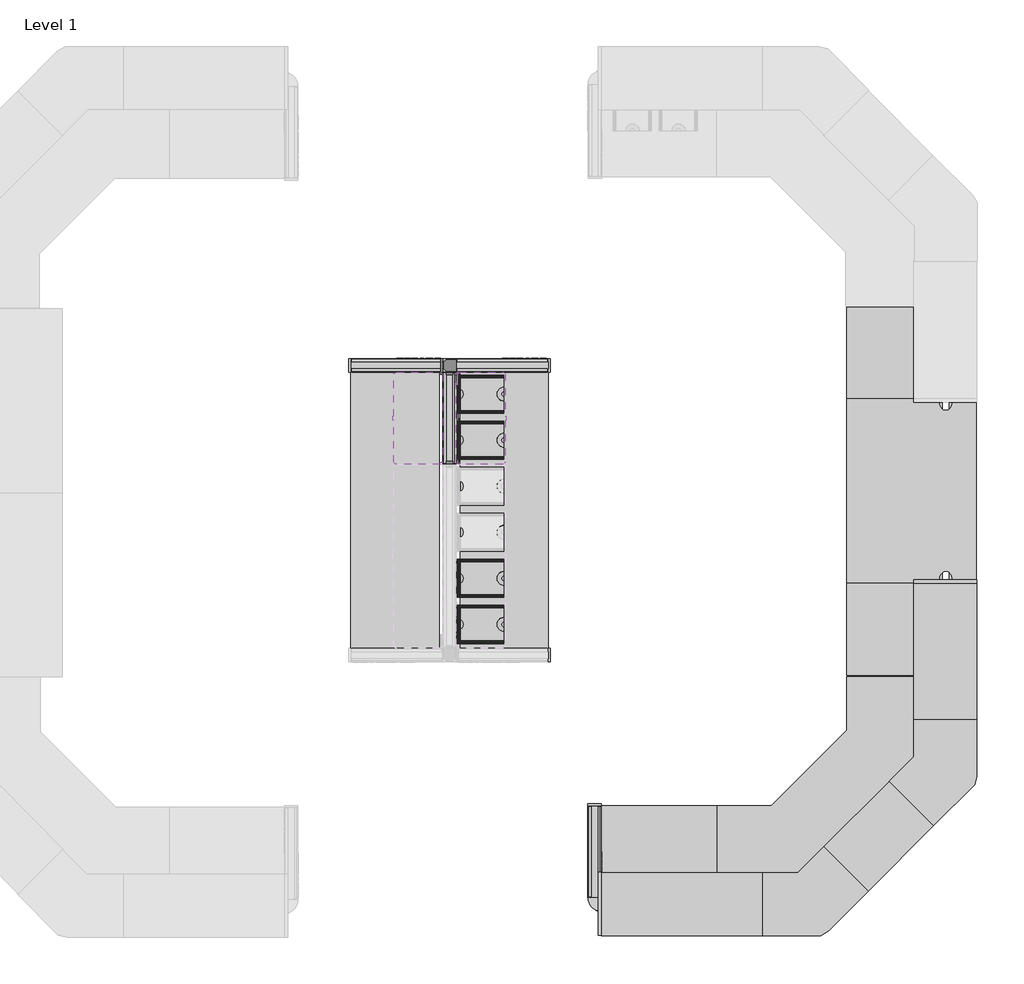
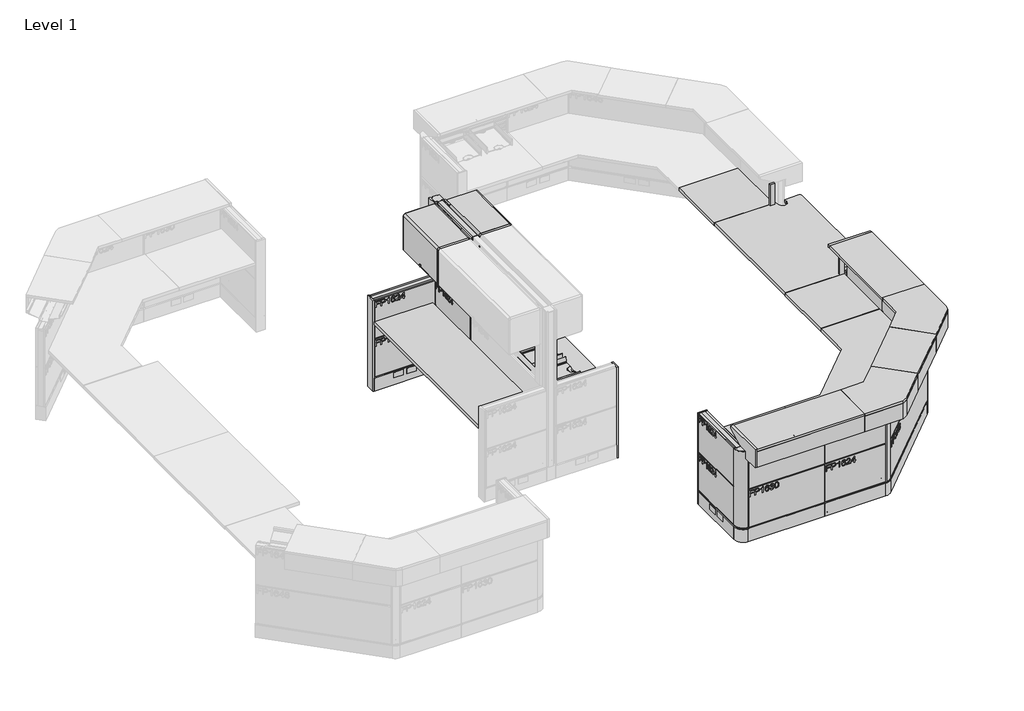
# One storey, part 2 of 3: 110 furniture elements.
"""IFC4 building model written with IfcOpenShell, lengths in millimetres."""

from ifc_helpers import new_model, si_unit, origin, place, context, project, spatial, transform, mapped, element, save
from components import furniture_050a35a8, furniture_c9942d7d, furniture_f6e7f18d, furniture_7324295f, furniture_a86162da, furniture_df6beef7, furniture_9c7ec0bd, furniture_8828cb60, furniture_deab35e4, furniture_083f9362, furniture_0245ad47, furniture_adfb5ce8, furniture_f9b3eec1, furniture_44389360, furniture_d1243616, furniture_9dcc6860, furniture_c5aecc28, furniture_c9bda4e8, furniture_8bbf410e, furniture_7175fb00, furniture_e496f4a3, furniture_85814acf, furniture_61a489be, furniture_2b4b025d, furniture_bb47e685, furniture_82e04d0f, furniture_d0e672ad, furniture_481bf6a0, furniture_f3e254ba, furniture_135_deg_68790faa, furniture_135_deg_corner_e0015eda, furniture_24d_left_781ecdd2, furniture_24d_right_b8f5cfed, furniture_68980961, furniture_c74ffdfc, end_cap_54c5994d, lam_24d_24w_e9b59cf5, lam_24d_30w_89995873, lam_24d_48w_d90dfd80, lam_24d_72w_2bc73c4e, left_ebece1d7

model = new_model("IFC4")

# Units and contexts
model_context = context("Model", 3, world=origin())
ifc_project = project(units=[si_unit("LENGTHUNIT", "METRE", prefix="MILLI")], contexts=[model_context])

# Site, building, storey
site = spatial("IfcSite", under=ifc_project)
building = spatial("IfcBuilding", under=site)
storey = spatial("IfcBuildingStorey", under=building, Name="Level 1", Elevation=0.0)

# Furniture
placement = place(None, origin())
furniture_shape = furniture_050a35a8(model_context)
element("IfcFurniture", 1, ObjectType="HermanMiller_Ethospace_EWS73_F_Sq-Edge135WorkSurfaceDouble_FrameAttached : Ptd 24D 48W", at=placement, inside=storey, context=model_context, shape_type="MappedRepresentation", body=[
    mapped(furniture_shape, transform((6177.9811792, 679.0398452, 0.0), x_axis=(0.0, -1.0, 0.0), y_axis=(1.0, 0.0, 0.0), z_axis=(0.0, 0.0, 1.0))),
])
furniture_2_shape = furniture_c9942d7d(model_context)
element("IfcFurniture", 2, ObjectType="HermanMiller_Ethospace_E3212_B-StyleFlipperDoorUnit : Ptd W/Lock 13\"D x 24\"W", at=placement, inside=storey, context=model_context, shape_type="MappedRepresentation", body=[
    mapped(furniture_2_shape, transform((3357.52186, 3437.39978, 0.0), x_axis=(0.0, -1.0, 0.0), y_axis=(1.0, 0.0, 0.0), z_axis=(0.0, 0.0, 1.0))),
])
element("IfcFurniture", 3, ObjectType="HermanMiller_Ethospace_E3212_B-StyleFlipperDoorUnit : Ptd W/Lock 13\"D x 24\"W", at=placement, inside=storey, context=model_context, shape_type="MappedRepresentation", body=[
    mapped(furniture_2_shape, transform((3795.67186, 3437.3947, 0.0), x_axis=(0.0, 1.0, 0.0), y_axis=(-1.0, 0.0, 0.0), z_axis=(0.0, 0.0, 1.0))),
])
furniture_3_shape = furniture_f6e7f18d(model_context)
element("IfcFurniture", 4, ObjectType="HermanMiller_Ethospace_E2830_SqEdgeCounterTop : 7-1/2\"H x 16-3/8\"D x 42\"W", at=placement, inside=storey, context=model_context, shape_type="MappedRepresentation", body=[
    mapped(furniture_3_shape, transform((5114.96056, 221.57817, 0.0), x_axis=(-1.0, 0.0, 0.0), y_axis=(0.0, -1.0, 0.0), z_axis=(0.0, 0.0, 1.0))),
])
furniture_4_shape = furniture_7324295f(model_context)
element("IfcFurniture", 5, ObjectType="HermanMiller_Ethospace_E2830_SqEdgeCounterTop : 7-1/2\"H x 16-3/8\"D x 36\"W", at=placement, inside=storey, context=model_context, shape_type="MappedRepresentation", body=[
    mapped(furniture_4_shape, transform((6854.95454, 1887.89056, 0.0), x_axis=(0.0, -1.0, 0.0), y_axis=(1.0, 0.0, 0.0), z_axis=(0.0, 0.0, 1.0))),
])
furniture_5_shape = furniture_a86162da(model_context)
element("IfcFurniture", 6, ObjectType="HermanMiller_Ethospace_E2830_SqEdgeCounterTop : 7-1/2\"H x 16-3/8\"D x 24\"W", at=placement, inside=storey, context=model_context, shape_type="MappedRepresentation", body=[
    mapped(furniture_5_shape, transform((6415.4468618, 670.4021868, 0.0), x_axis=(-0.7071067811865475, -0.7071067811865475, 0.0), y_axis=(0.7071067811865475, -0.7071067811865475, 0.0), z_axis=(0.0, 0.0, 1.0))),
])
furniture_6_shape = furniture_df6beef7(model_context)
element("IfcFurniture", 7, ObjectType="HermanMiller_Ethospace_E2827_CounterTopSupport : 48\"W W/Light", at=placement, inside=storey, context=model_context, shape_type="MappedRepresentation", body=[
    mapped(furniture_6_shape, transform((6406.6635136, 672.8441587, 0.0), x_axis=(-0.7071067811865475, -0.7071067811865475, 0.0), y_axis=(0.7071067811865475, -0.7071067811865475, 0.0), z_axis=(0.0, 0.0, 1.0))),
])
furniture_7_shape = furniture_9c7ec0bd(model_context)
element("IfcFurniture", 8, ObjectType="HermanMiller_Ethospace_E2827_CounterTopSupport : 30\"W W/Light", at=placement, inside=storey, context=model_context, shape_type="MappedRepresentation", body=[
    mapped(furniture_7_shape, transform((4962.26338, 232.19664, 0.0), x_axis=(-1.0, 0.0, 0.0), y_axis=(0.0, -1.0, 0.0), z_axis=(0.0, 0.0, 1.0))),
])
furniture_8_shape = furniture_8828cb60(model_context)
element("IfcFurniture", 9, ObjectType="HermanMiller_Ethospace_E2827_CounterTopSupport : 24\"W W/Light", at=placement, inside=storey, context=model_context, shape_type="MappedRepresentation", body=[
    mapped(furniture_8_shape, transform((6847.01704, 2040.74776, 0.0), x_axis=(0.0, -1.0, 0.0), y_axis=(1.0, 0.0, 0.0), z_axis=(0.0, 0.0, 1.0))),
])
element("IfcFurniture", 10, ObjectType="HermanMiller_Ethospace_E2827_CounterTopSupport : 24\"W W/Light", at=placement, inside=storey, context=model_context, shape_type="MappedRepresentation", body=[
    mapped(furniture_8_shape, transform((5648.06338, 232.19664, 0.0), x_axis=(-1.0, 0.0, 0.0), y_axis=(0.0, -1.0, 0.0), z_axis=(0.0, 0.0, 1.0))),
])
element("IfcFurniture", 11, ObjectType="HermanMiller_Ethospace_E2827_CounterTopSupport : 24\"W W/Light", at=placement, inside=storey, context=model_context, shape_type="MappedRepresentation", body=[
    mapped(furniture_8_shape, transform((6847.01704, 1430.5534, 0.0), x_axis=(0.0, -1.0, 0.0), y_axis=(1.0, 0.0, 0.0), z_axis=(0.0, 0.0, 1.0))),
])
furniture_9_shape = furniture_deab35e4(model_context)
element("IfcFurniture", 12, ObjectType="HermanMiller_Ethospace_E1425_RailTile : 08\"H x 24\"W", at=placement, inside=storey, context=model_context, shape_type="MappedRepresentation", body=[
    mapped(furniture_9_shape, transform((3611.05958, 3437.3947, 0.0), x_axis=(0.0, 1.0, 0.0), y_axis=(-1.0, 0.0, 0.0), z_axis=(0.0, 0.0, 1.0))),
])
furniture_10_shape = furniture_083f9362(model_context)
element("IfcFurniture", 13, ObjectType="HermanMiller_Ethospace_E1420_FaceTile : Ptd 20\"H x 48\"W", at=placement, inside=storey, context=model_context, shape_type="MappedRepresentation", body=[
    mapped(furniture_10_shape, transform((6891.4670461, 2954.69056, 0.0), x_axis=(0.0, 1.0, 0.0), y_axis=(-1.0, 0.0, 0.0), z_axis=(0.0, 0.0, 1.0))),
])
element("IfcFurniture", 14, ObjectType="HermanMiller_Ethospace_E1420_FaceTile : Ptd 20\"H x 48\"W", at=placement, inside=storey, context=model_context, shape_type="MappedRepresentation", body=[
    mapped(furniture_10_shape, transform((6827.9670339, 2954.5534, 0.0), x_axis=(0.0, -1.0, 0.0), y_axis=(1.0, 0.0, 0.0), z_axis=(0.0, 0.0, 1.0))),
])
furniture_11_shape = furniture_0245ad47(model_context)
element("IfcFurniture", 15, ObjectType="HermanMiller_Ethospace_E1420_FaceTile : Ptd 16\"H x 48\"W", at=placement, inside=storey, context=model_context, shape_type="MappedRepresentation", body=[
    mapped(furniture_11_shape, transform((6438.095062, 640.8195457, 0.0), x_axis=(0.7071067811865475, 0.7071067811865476, 0.0), y_axis=(-0.7071067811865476, 0.7071067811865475, 0.0), z_axis=(0.0, 0.0, 1.0))),
])
element("IfcFurniture", 16, ObjectType="HermanMiller_Ethospace_E1420_FaceTile : Ptd 16\"H x 48\"W", at=placement, inside=storey, context=model_context, shape_type="MappedRepresentation", body=[
    mapped(furniture_11_shape, transform((6394.879018, 684.0368343, 0.0), x_axis=(-0.7071067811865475, -0.7071067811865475, 0.0), y_axis=(0.7071067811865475, -0.7071067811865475, 0.0), z_axis=(0.0, 0.0, 1.0))),
])
furniture_12_shape = furniture_adfb5ce8(model_context)
element("IfcFurniture", 17, ObjectType="HermanMiller_Ethospace_E1420_FaceTile : Ptd 16\"H x 48\"W", at=placement, inside=storey, context=model_context, shape_type="MappedRepresentation", body=[
    mapped(furniture_12_shape, transform((6394.879018, 684.0368343, 0.0), x_axis=(-0.7071067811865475, -0.7071067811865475, 0.0), y_axis=(0.7071067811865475, -0.7071067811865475, 0.0), z_axis=(0.0, 0.0, 1.0))),
])
element("IfcFurniture", 18, ObjectType="HermanMiller_Ethospace_E1420_FaceTile : Ptd 16\"H x 48\"W", at=placement, inside=storey, context=model_context, shape_type="MappedRepresentation", body=[
    mapped(furniture_12_shape, transform((6438.095062, 640.8195457, 0.0), x_axis=(0.7071067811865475, 0.7071067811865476, 0.0), y_axis=(-0.7071067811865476, 0.7071067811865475, 0.0), z_axis=(0.0, 0.0, 1.0))),
])
furniture_13_shape = furniture_f9b3eec1(model_context)
element("IfcFurniture", 19, ObjectType="HermanMiller_Ethospace_E1420_FaceTile : Ptd 16\"H x 30\"W", at=placement, inside=storey, context=model_context, shape_type="MappedRepresentation", body=[
    mapped(furniture_13_shape, transform((4962.56056, 187.4469139, 0.0), x_axis=(1.0, 0.0, 0.0), y_axis=(0.0, 1.0, 0.0), z_axis=(0.0, 0.0, 1.0))),
])
element("IfcFurniture", 20, ObjectType="HermanMiller_Ethospace_E1420_FaceTile : Ptd 16\"H x 30\"W", at=placement, inside=storey, context=model_context, shape_type="MappedRepresentation", body=[
    mapped(furniture_13_shape, transform((4962.56056, 250.9469261, 0.0), x_axis=(-1.0, 0.0, 0.0), y_axis=(0.0, -1.0, 0.0), z_axis=(0.0, 0.0, 1.0))),
])
furniture_14_shape = furniture_44389360(model_context)
element("IfcFurniture", 21, ObjectType="HermanMiller_Ethospace_E1420_FaceTile : Ptd 16\"H x 30\"W", at=placement, inside=storey, context=model_context, shape_type="MappedRepresentation", body=[
    mapped(furniture_14_shape, transform((4962.56056, 187.4469139, 0.0), x_axis=(1.0, 0.0, 0.0), y_axis=(0.0, 1.0, 0.0), z_axis=(0.0, 0.0, 1.0))),
])
element("IfcFurniture", 22, ObjectType="HermanMiller_Ethospace_E1420_FaceTile : Ptd 16\"H x 30\"W", at=placement, inside=storey, context=model_context, shape_type="MappedRepresentation", body=[
    mapped(furniture_14_shape, transform((4962.56056, 250.9469261, 0.0), x_axis=(-1.0, 0.0, 0.0), y_axis=(0.0, -1.0, 0.0), z_axis=(0.0, 0.0, 1.0))),
])
furniture_15_shape = furniture_d1243616(model_context)
element("IfcFurniture", 23, ObjectType="HermanMiller_Ethospace_E1420_FaceTile : Ptd 16\"H x 24\"W", at=placement, inside=storey, context=model_context, shape_type="MappedRepresentation", body=[
    mapped(furniture_15_shape, transform((6891.4670461, 2040.29056, 0.0), x_axis=(0.0, 1.0, 0.0), y_axis=(-1.0, 0.0, 0.0), z_axis=(0.0, 0.0, 1.0))),
])
element("IfcFurniture", 24, ObjectType="HermanMiller_Ethospace_E1420_FaceTile : Ptd 16\"H x 24\"W", at=placement, inside=storey, context=model_context, shape_type="MappedRepresentation", body=[
    mapped(furniture_15_shape, transform((6827.9670339, 2040.29056, 0.0), x_axis=(0.0, -1.0, 0.0), y_axis=(1.0, 0.0, 0.0), z_axis=(0.0, 0.0, 1.0))),
])
element("IfcFurniture", 25, ObjectType="HermanMiller_Ethospace_E1420_FaceTile : Ptd 16\"H x 24\"W", at=placement, inside=storey, context=model_context, shape_type="MappedRepresentation", body=[
    mapped(furniture_15_shape, transform((4568.0680861, 568.44946, 0.0), x_axis=(0.0, 1.0, 0.0), y_axis=(-1.0, 0.0, 0.0), z_axis=(0.0, 0.0, 1.0))),
])
element("IfcFurniture", 26, ObjectType="HermanMiller_Ethospace_E1420_FaceTile : Ptd 16\"H x 24\"W", at=placement, inside=storey, context=model_context, shape_type="MappedRepresentation", body=[
    mapped(furniture_15_shape, transform((4505.3605539, 568.44946, 0.0), x_axis=(0.0, -1.0, 0.0), y_axis=(1.0, 0.0, 0.0), z_axis=(0.0, 0.0, 1.0))),
])
element("IfcFurniture", 27, ObjectType="HermanMiller_Ethospace_E1420_FaceTile : Ptd 16\"H x 24\"W", at=placement, inside=storey, context=model_context, shape_type="MappedRepresentation", body=[
    mapped(furniture_15_shape, transform((5648.36056, 187.4469139, 0.0), x_axis=(1.0, 0.0, 0.0), y_axis=(0.0, 1.0, 0.0), z_axis=(0.0, 0.0, 1.0))),
])
element("IfcFurniture", 28, ObjectType="HermanMiller_Ethospace_E1420_FaceTile : Ptd 16\"H x 24\"W", at=placement, inside=storey, context=model_context, shape_type="MappedRepresentation", body=[
    mapped(furniture_15_shape, transform((5648.36056, 250.9469261, 0.0), x_axis=(-1.0, 0.0, 0.0), y_axis=(0.0, -1.0, 0.0), z_axis=(0.0, 0.0, 1.0))),
])
element("IfcFurniture", 29, ObjectType="HermanMiller_Ethospace_E1420_FaceTile : Ptd 16\"H x 24\"W", at=placement, inside=storey, context=model_context, shape_type="MappedRepresentation", body=[
    mapped(furniture_15_shape, transform((6891.4670461, 1430.5534, 0.0), x_axis=(0.0, 1.0, 0.0), y_axis=(-1.0, 0.0, 0.0), z_axis=(0.0, 0.0, 1.0))),
])
element("IfcFurniture", 30, ObjectType="HermanMiller_Ethospace_E1420_FaceTile : Ptd 16\"H x 24\"W", at=placement, inside=storey, context=model_context, shape_type="MappedRepresentation", body=[
    mapped(furniture_15_shape, transform((6827.9670339, 1430.5534, 0.0), x_axis=(0.0, -1.0, 0.0), y_axis=(1.0, 0.0, 0.0), z_axis=(0.0, 0.0, 1.0))),
])
element("IfcFurniture", 31, ObjectType="HermanMiller_Ethospace_E1420_FaceTile : Ptd 16\"H x 24\"W", at=placement, inside=storey, context=model_context, shape_type="MappedRepresentation", body=[
    mapped(furniture_15_shape, transform((3227.34686, 3818.3997861, 0.0), x_axis=(-1.0, 0.0, 0.0), y_axis=(0.0, -1.0, 0.0), z_axis=(0.0, 0.0, 1.0))),
])
element("IfcFurniture", 32, ObjectType="HermanMiller_Ethospace_E1420_FaceTile : Ptd 16\"H x 24\"W", at=placement, inside=storey, context=model_context, shape_type="MappedRepresentation", body=[
    mapped(furniture_15_shape, transform((3227.34686, 3754.8997739, 0.0), x_axis=(1.0, 0.0, 0.0), y_axis=(0.0, 1.0, 0.0), z_axis=(0.0, 0.0, 1.0))),
])
element("IfcFurniture", 33, ObjectType="HermanMiller_Ethospace_E1420_FaceTile : Ptd 16\"H x 24\"W", at=placement, inside=storey, context=model_context, shape_type="MappedRepresentation", body=[
    mapped(furniture_15_shape, transform((3925.84686, 3818.3997861, 0.0), x_axis=(-1.0, 0.0, 0.0), y_axis=(0.0, -1.0, 0.0), z_axis=(0.0, 0.0, 1.0))),
])
element("IfcFurniture", 34, ObjectType="HermanMiller_Ethospace_E1420_FaceTile : Ptd 16\"H x 24\"W", at=placement, inside=storey, context=model_context, shape_type="MappedRepresentation", body=[
    mapped(furniture_15_shape, transform((3925.84686, 3754.8997739, 0.0), x_axis=(1.0, 0.0, 0.0), y_axis=(0.0, 1.0, 0.0), z_axis=(0.0, 0.0, 1.0))),
])
element("IfcFurniture", 35, ObjectType="HermanMiller_Ethospace_E1420_FaceTile : Ptd 16\"H x 24\"W", at=placement, inside=storey, context=model_context, shape_type="MappedRepresentation", body=[
    mapped(furniture_15_shape, transform((3544.8468539, 3437.39978, 0.0), x_axis=(0.0, -1.0, 0.0), y_axis=(1.0, 0.0, 0.0), z_axis=(0.0, 0.0, 1.0))),
])
element("IfcFurniture", 36, ObjectType="HermanMiller_Ethospace_E1420_FaceTile : Ptd 16\"H x 24\"W", at=placement, inside=storey, context=model_context, shape_type="MappedRepresentation", body=[
    mapped(furniture_15_shape, transform((3608.3468661, 3437.39978, 0.0), x_axis=(0.0, 1.0, 0.0), y_axis=(-1.0, 0.0, 0.0), z_axis=(0.0, 0.0, 1.0))),
])
element("IfcFurniture", 37, ObjectType="HermanMiller_Ethospace_E1420_FaceTile : Ptd 16\"H x 24\"W", at=placement, inside=storey, context=model_context, shape_type="MappedRepresentation", body=[
    mapped(furniture_15_shape, transform((3608.3468661, 3437.39978, 0.0), x_axis=(0.0, 1.0, 0.0), y_axis=(-1.0, 0.0, 0.0), z_axis=(0.0, 0.0, 1.0))),
])
element("IfcFurniture", 38, ObjectType="HermanMiller_Ethospace_E1420_FaceTile : Ptd 16\"H x 24\"W", at=placement, inside=storey, context=model_context, shape_type="MappedRepresentation", body=[
    mapped(furniture_15_shape, transform((3544.8468539, 3437.39978, 0.0), x_axis=(0.0, -1.0, 0.0), y_axis=(1.0, 0.0, 0.0), z_axis=(0.0, 0.0, 1.0))),
])
furniture_16_shape = furniture_9dcc6860(model_context)
element("IfcFurniture", 39, ObjectType="HermanMiller_Ethospace_E1420_FaceTile : Ptd 16\"H x 24\"W", at=placement, inside=storey, context=model_context, shape_type="MappedRepresentation", body=[
    mapped(furniture_16_shape, transform((6891.4670461, 2040.29056, 0.0), x_axis=(0.0, 1.0, 0.0), y_axis=(-1.0, 0.0, 0.0), z_axis=(0.0, 0.0, 1.0))),
])
element("IfcFurniture", 40, ObjectType="HermanMiller_Ethospace_E1420_FaceTile : Ptd 16\"H x 24\"W", at=placement, inside=storey, context=model_context, shape_type="MappedRepresentation", body=[
    mapped(furniture_16_shape, transform((6827.9670339, 2040.29056, 0.0), x_axis=(0.0, -1.0, 0.0), y_axis=(1.0, 0.0, 0.0), z_axis=(0.0, 0.0, 1.0))),
])
element("IfcFurniture", 41, ObjectType="HermanMiller_Ethospace_E1420_FaceTile : Ptd 16\"H x 24\"W", at=placement, inside=storey, context=model_context, shape_type="MappedRepresentation", body=[
    mapped(furniture_16_shape, transform((6827.9670339, 1430.5534, 0.0), x_axis=(0.0, -1.0, 0.0), y_axis=(1.0, 0.0, 0.0), z_axis=(0.0, 0.0, 1.0))),
])
element("IfcFurniture", 42, ObjectType="HermanMiller_Ethospace_E1420_FaceTile : Ptd 16\"H x 24\"W", at=placement, inside=storey, context=model_context, shape_type="MappedRepresentation", body=[
    mapped(furniture_16_shape, transform((4568.0680861, 568.44946, 0.0), x_axis=(0.0, 1.0, 0.0), y_axis=(-1.0, 0.0, 0.0), z_axis=(0.0, 0.0, 1.0))),
])
element("IfcFurniture", 43, ObjectType="HermanMiller_Ethospace_E1420_FaceTile : Ptd 16\"H x 24\"W", at=placement, inside=storey, context=model_context, shape_type="MappedRepresentation", body=[
    mapped(furniture_16_shape, transform((4505.3605539, 568.44946, 0.0), x_axis=(0.0, -1.0, 0.0), y_axis=(1.0, 0.0, 0.0), z_axis=(0.0, 0.0, 1.0))),
])
element("IfcFurniture", 44, ObjectType="HermanMiller_Ethospace_E1420_FaceTile : Ptd 16\"H x 24\"W", at=placement, inside=storey, context=model_context, shape_type="MappedRepresentation", body=[
    mapped(furniture_16_shape, transform((5648.36056, 250.9469261, 0.0), x_axis=(-1.0, 0.0, 0.0), y_axis=(0.0, -1.0, 0.0), z_axis=(0.0, 0.0, 1.0))),
])
element("IfcFurniture", 45, ObjectType="HermanMiller_Ethospace_E1420_FaceTile : Ptd 16\"H x 24\"W", at=placement, inside=storey, context=model_context, shape_type="MappedRepresentation", body=[
    mapped(furniture_16_shape, transform((5648.36056, 187.4469139, 0.0), x_axis=(1.0, 0.0, 0.0), y_axis=(0.0, 1.0, 0.0), z_axis=(0.0, 0.0, 1.0))),
])
element("IfcFurniture", 46, ObjectType="HermanMiller_Ethospace_E1420_FaceTile : Ptd 16\"H x 24\"W", at=placement, inside=storey, context=model_context, shape_type="MappedRepresentation", body=[
    mapped(furniture_16_shape, transform((6891.4670461, 1430.5534, 0.0), x_axis=(0.0, 1.0, 0.0), y_axis=(-1.0, 0.0, 0.0), z_axis=(0.0, 0.0, 1.0))),
])
element("IfcFurniture", 47, ObjectType="HermanMiller_Ethospace_E1420_FaceTile : Ptd 16\"H x 24\"W", at=placement, inside=storey, context=model_context, shape_type="MappedRepresentation", body=[
    mapped(furniture_16_shape, transform((3227.34686, 3818.3997861, 0.0), x_axis=(-1.0, 0.0, 0.0), y_axis=(0.0, -1.0, 0.0), z_axis=(0.0, 0.0, 1.0))),
])
element("IfcFurniture", 48, ObjectType="HermanMiller_Ethospace_E1420_FaceTile : Ptd 16\"H x 24\"W", at=placement, inside=storey, context=model_context, shape_type="MappedRepresentation", body=[
    mapped(furniture_16_shape, transform((3227.34686, 3754.8997739, 0.0), x_axis=(1.0, 0.0, 0.0), y_axis=(0.0, 1.0, 0.0), z_axis=(0.0, 0.0, 1.0))),
])
element("IfcFurniture", 49, ObjectType="HermanMiller_Ethospace_E1420_FaceTile : Ptd 16\"H x 24\"W", at=placement, inside=storey, context=model_context, shape_type="MappedRepresentation", body=[
    mapped(furniture_16_shape, transform((3925.84686, 3818.3997861, 0.0), x_axis=(-1.0, 0.0, 0.0), y_axis=(0.0, -1.0, 0.0), z_axis=(0.0, 0.0, 1.0))),
])
element("IfcFurniture", 50, ObjectType="HermanMiller_Ethospace_E1420_FaceTile : Ptd 16\"H x 24\"W", at=placement, inside=storey, context=model_context, shape_type="MappedRepresentation", body=[
    mapped(furniture_16_shape, transform((3925.84686, 3754.8997739, 0.0), x_axis=(1.0, 0.0, 0.0), y_axis=(0.0, 1.0, 0.0), z_axis=(0.0, 0.0, 1.0))),
])
element("IfcFurniture", 51, ObjectType="HermanMiller_Ethospace_E1420_FaceTile : Ptd 16\"H x 24\"W", at=placement, inside=storey, context=model_context, shape_type="MappedRepresentation", body=[
    mapped(furniture_16_shape, transform((3544.8468539, 3437.39978, 0.0), x_axis=(0.0, -1.0, 0.0), y_axis=(1.0, 0.0, 0.0), z_axis=(0.0, 0.0, 1.0))),
])
furniture_17_shape = furniture_c5aecc28(model_context)
element("IfcFurniture", 52, ObjectType="HermanMiller_Ethospace_E1420_FaceTile : Ptd 08\"H x 24\"W", at=placement, inside=storey, context=model_context, shape_type="MappedRepresentation", body=[
    mapped(furniture_17_shape, transform((3620.5845861, 3437.3947, 0.0), x_axis=(0.0, 1.0, 0.0), y_axis=(-1.0, 0.0, 0.0), z_axis=(0.0, 0.0, 1.0))),
])
furniture_18_shape = furniture_c9bda4e8(model_context)
element("IfcFurniture", 53, ObjectType="HermanMiller_Ethospace_E1251_FinishedEndChangeOfHeight : Std Ptd 32\"H", at=placement, inside=storey, context=model_context, shape_type="MappedRepresentation", body=[
    mapped(furniture_18_shape, transform((3625.8561218, 3703.8279256, 0.0), x_axis=(1.0, 0.0, 0.0), y_axis=(0.0, 1.0, 0.0), z_axis=(0.0, 0.0, 1.0))),
])
element("IfcFurniture", 54, ObjectType="HermanMiller_Ethospace_E1251_FinishedEndChangeOfHeight : Std Ptd 32\"H", at=placement, inside=storey, context=model_context, shape_type="MappedRepresentation", body=[
    mapped(furniture_18_shape, transform((3526.7762582, 3780.8535744, 0.0), x_axis=(-1.0, 0.0, 0.0), y_axis=(0.0, -1.0, 0.0), z_axis=(0.0, 0.0, 1.0))),
])
furniture_19_shape = furniture_8bbf410e(model_context)
element("IfcFurniture", 55, ObjectType="HermanMiller_Ethospace_E1250_FinishedEnd : Std Ptd 38\"H", at=placement, inside=storey, context=model_context, shape_type="MappedRepresentation", body=[
    mapped(furniture_19_shape, transform((4530.5218744, 878.6200618, 0.0), x_axis=(0.0, 1.0, 0.0), y_axis=(-1.0, 0.0, 0.0), z_axis=(0.0, 0.0, 1.0))),
])
element("IfcFurniture", 56, ObjectType="HermanMiller_Ethospace_E1250_FinishedEnd : Std Ptd 38\"H", at=placement, inside=storey, context=model_context, shape_type="MappedRepresentation", body=[
    mapped(furniture_19_shape, transform((2917.1762582, 3780.8535744, 0.0), x_axis=(-1.0, 0.0, 0.0), y_axis=(0.0, -1.0, 0.0), z_axis=(0.0, 0.0, 1.0))),
])
element("IfcFurniture", 57, ObjectType="HermanMiller_Ethospace_E1250_FinishedEnd : Std Ptd 38\"H", at=placement, inside=storey, context=model_context, shape_type="MappedRepresentation", body=[
    mapped(furniture_19_shape, transform((4235.4561218, 3792.4459856, 0.0), x_axis=(1.0, 0.0, 0.0), y_axis=(0.0, 1.0, 0.0), z_axis=(0.0, 0.0, 1.0))),
])
element("IfcFurniture", 58, ObjectType="HermanMiller_Ethospace_E1250_FinishedEnd : Std Ptd 38\"H", at=placement, inside=storey, context=model_context, shape_type="MappedRepresentation", body=[
    mapped(furniture_19_shape, transform((4236.0174618, 1874.7459856, 0.0), x_axis=(1.0, 0.0, 0.0), y_axis=(0.0, 1.0, 0.0), z_axis=(0.0, 0.0, 1.0))),
])
furniture_20_shape = furniture_7175fb00(model_context)
element("IfcFurniture", 59, ObjectType="HermanMiller_Ethospace_E1220_90DegreeConnector : Vnyl 70\"H 3-Way-N", at=placement, inside=storey, context=model_context, shape_type="MappedRepresentation", body=[
    mapped(furniture_20_shape, transform((3568.4316499, 3812.0497819, 0.0), x_axis=(0.0, -1.0, 0.0), y_axis=(1.0, 0.0, 0.0), z_axis=(0.0, 0.0, 1.0))),
])
furniture_21_shape = furniture_e496f4a3(model_context)
element("IfcFurniture", 60, ObjectType="HermanMiller_Ethospace_E1220_90DegreeConnector : Vnyl 38\"H 2-Way Rds-N", at=placement, inside=storey, context=model_context, shape_type="MappedRepresentation", body=[
    mapped(furniture_21_shape, transform((4562.2133819, 227.3621301, 0.0), x_axis=(-1.0, 0.0, 0.0), y_axis=(0.0, -1.0, 0.0), z_axis=(0.0, 0.0, 1.0))),
])
furniture_22_shape = furniture_85814acf(model_context)
element("IfcFurniture", 61, ObjectType="HermanMiller_Ethospace_E1116_FrameTransactionWorkSurface : 38\"H x 48\"W-H", at=placement, inside=storey, context=model_context, shape_type="MappedRepresentation", body=[
    mapped(furniture_22_shape, transform((6770.8018061, 2954.69056, 0.0), x_axis=(0.0, -1.0, 0.0), y_axis=(1.0, 0.0, 0.0), z_axis=(0.0, 0.0, 1.0))),
])
furniture_23_shape = furniture_61a489be(model_context)
element("IfcFurniture", 62, ObjectType="HermanMiller_Ethospace_E1109_Frame : 70\"H x 24\"W-H", at=placement, inside=storey, context=model_context, shape_type="MappedRepresentation", body=[
    mapped(furniture_23_shape, transform((3576.59686, 3437.39978, 0.0), x_axis=(0.0, -1.0, 0.0), y_axis=(1.0, 0.0, 0.0), z_axis=(0.0, 0.0, 1.0))),
])
furniture_24_shape = furniture_2b4b025d(model_context)
element("IfcFurniture", 63, ObjectType="HermanMiller_Ethospace_E1109_Frame : 38\"H x 48\"W-H", at=placement, inside=storey, context=model_context, shape_type="MappedRepresentation", body=[
    mapped(furniture_24_shape, transform((6415.3472374, 663.5673702, 0.0), x_axis=(-0.7071067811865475, -0.7071067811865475, 0.0), y_axis=(0.7071067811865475, -0.7071067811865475, 0.0), z_axis=(0.0, 0.0, 1.0))),
])
furniture_25_shape = furniture_bb47e685(model_context)
element("IfcFurniture", 64, ObjectType="HermanMiller_Ethospace_E1109_Frame : 38\"H x 30\"W-H", at=placement, inside=storey, context=model_context, shape_type="MappedRepresentation", body=[
    mapped(furniture_25_shape, transform((4962.0551, 219.49664, 0.0), x_axis=(-1.0, 0.0, 0.0), y_axis=(0.0, -1.0, 0.0), z_axis=(0.0, 0.0, 1.0))),
])
furniture_26_shape = furniture_82e04d0f(model_context)
element("IfcFurniture", 65, ObjectType="HermanMiller_Ethospace_E1109_Frame : 38\"H x 24\"W-H", at=placement, inside=storey, context=model_context, shape_type="MappedRepresentation", body=[
    mapped(furniture_26_shape, transform((6859.71704, 2040.74776, 0.0), x_axis=(0.0, -1.0, 0.0), y_axis=(1.0, 0.0, 0.0), z_axis=(0.0, 0.0, 1.0))),
])
element("IfcFurniture", 66, ObjectType="HermanMiller_Ethospace_E1109_Frame : 38\"H x 24\"W-H", at=placement, inside=storey, context=model_context, shape_type="MappedRepresentation", body=[
    mapped(furniture_26_shape, transform((4536.31808, 568.44946, 0.0), x_axis=(0.0, -1.0, 0.0), y_axis=(1.0, 0.0, 0.0), z_axis=(0.0, 0.0, 1.0))),
])
element("IfcFurniture", 67, ObjectType="HermanMiller_Ethospace_E1109_Frame : 38\"H x 24\"W-H", at=placement, inside=storey, context=model_context, shape_type="MappedRepresentation", body=[
    mapped(furniture_26_shape, transform((5648.06338, 219.49664, 0.0), x_axis=(-1.0, 0.0, 0.0), y_axis=(0.0, -1.0, 0.0), z_axis=(0.0, 0.0, 1.0))),
])
element("IfcFurniture", 68, ObjectType="HermanMiller_Ethospace_E1109_Frame : 38\"H x 24\"W-H", at=placement, inside=storey, context=model_context, shape_type="MappedRepresentation", body=[
    mapped(furniture_26_shape, transform((6859.71704, 1431.14776, 0.0), x_axis=(0.0, -1.0, 0.0), y_axis=(1.0, 0.0, 0.0), z_axis=(0.0, 0.0, 1.0))),
])
element("IfcFurniture", 69, ObjectType="HermanMiller_Ethospace_E1109_Frame : 38\"H x 24\"W-H", at=placement, inside=storey, context=model_context, shape_type="MappedRepresentation", body=[
    mapped(furniture_26_shape, transform((3227.34686, 3786.64978, 0.0), x_axis=(1.0, 0.0, 0.0), y_axis=(0.0, 1.0, 0.0), z_axis=(0.0, 0.0, 1.0))),
])
element("IfcFurniture", 70, ObjectType="HermanMiller_Ethospace_E1109_Frame : 38\"H x 24\"W-H", at=placement, inside=storey, context=model_context, shape_type="MappedRepresentation", body=[
    mapped(furniture_26_shape, transform((3925.28552, 3786.64978, 0.0), x_axis=(1.0, 0.0, 0.0), y_axis=(0.0, 1.0, 0.0), z_axis=(0.0, 0.0, 1.0))),
])
furniture_27_shape = furniture_d0e672ad(model_context)
element("IfcFurniture", 71, ObjectType="HermanMiller_ThrivePortfolio_Y7216_PaperTray : 3\"H x 12\"D x 10\"W", at=placement, inside=storey, context=model_context, shape_type="MappedRepresentation", body=[
    mapped(furniture_27_shape, transform((3781.86188, 3291.22786, 0.0), x_axis=(0.0, 1.0, 0.0), y_axis=(-1.0, 0.0, 0.0), z_axis=(0.0, 0.0, 1.0))),
])
element("IfcFurniture", 72, ObjectType="HermanMiller_ThrivePortfolio_Y7216_PaperTray : 3\"H x 12\"D x 10\"W", at=placement, inside=storey, context=model_context, shape_type="MappedRepresentation", body=[
    mapped(furniture_27_shape, transform((3781.86188, 3596.02786, 0.0), x_axis=(0.0, 1.0, 0.0), y_axis=(-1.0, 0.0, 0.0), z_axis=(0.0, 0.0, 1.0))),
])
furniture_28_shape = furniture_481bf6a0(model_context)
element("IfcFurniture", 73, ObjectType="HermanMiller_ThrivePortfolio_Y7216_PaperTray : 3\"H x 12\"D x 10\"W", at=placement, inside=storey, context=model_context, shape_type="MappedRepresentation", body=[
    mapped(furniture_28_shape, transform((3781.86188, 3291.22786, 0.0), x_axis=(0.0, 1.0, 0.0), y_axis=(-1.0, 0.0, 0.0), z_axis=(0.0, 0.0, 1.0))),
])
element("IfcFurniture", 74, ObjectType="HermanMiller_ThrivePortfolio_Y7216_PaperTray : 3\"H x 12\"D x 10\"W", at=placement, inside=storey, context=model_context, shape_type="MappedRepresentation", body=[
    mapped(furniture_28_shape, transform((3781.86188, 3596.02786, 0.0), x_axis=(0.0, 1.0, 0.0), y_axis=(-1.0, 0.0, 0.0), z_axis=(0.0, 0.0, 1.0))),
])
element("IfcFurniture", 75, ObjectType="HermanMiller_ThrivePortfolio_Y7216_PaperTray : 3\"H x 12\"D x 10\"W", at=placement, inside=storey, context=model_context, shape_type="MappedRepresentation", body=[
    mapped(furniture_28_shape, transform((3781.86188, 2376.82786, 0.0), x_axis=(0.0, 1.0, 0.0), y_axis=(-1.0, 0.0, 0.0), z_axis=(0.0, 0.0, 1.0))),
])
element("IfcFurniture", 76, ObjectType="HermanMiller_ThrivePortfolio_Y7216_PaperTray : 3\"H x 12\"D x 10\"W", at=placement, inside=storey, context=model_context, shape_type="MappedRepresentation", body=[
    mapped(furniture_28_shape, transform((3781.86188, 2072.02786, 0.0), x_axis=(0.0, 1.0, 0.0), y_axis=(-1.0, 0.0, 0.0), z_axis=(0.0, 0.0, 1.0))),
])
furniture_29_shape = furniture_f3e254ba(model_context)
element("IfcFurniture", 77, ObjectType="HermanMiller_ThrivePortfolio_Y7216_PaperTray : 3\"H x 12\"D x 10\"W", at=placement, inside=storey, context=model_context, shape_type="MappedRepresentation", body=[
    mapped(furniture_29_shape, transform((3781.86188, 3291.22786, 0.0), x_axis=(0.0, 1.0, 0.0), y_axis=(-1.0, 0.0, 0.0), z_axis=(0.0, 0.0, 1.0))),
])
element("IfcFurniture", 78, ObjectType="HermanMiller_ThrivePortfolio_Y7216_PaperTray : 3\"H x 12\"D x 10\"W", at=placement, inside=storey, context=model_context, shape_type="MappedRepresentation", body=[
    mapped(furniture_29_shape, transform((3781.86188, 3596.02786, 0.0), x_axis=(0.0, 1.0, 0.0), y_axis=(-1.0, 0.0, 0.0), z_axis=(0.0, 0.0, 1.0))),
])
element("IfcFurniture", 79, ObjectType="HermanMiller_ThrivePortfolio_Y7216_PaperTray : 3\"H x 12\"D x 10\"W", at=placement, inside=storey, context=model_context, shape_type="MappedRepresentation", body=[
    mapped(furniture_29_shape, transform((3781.86188, 2681.62786, 0.0), x_axis=(0.0, 1.0, 0.0), y_axis=(-1.0, 0.0, 0.0), z_axis=(0.0, 0.0, 1.0))),
])
element("IfcFurniture", 80, ObjectType="HermanMiller_ThrivePortfolio_Y7216_PaperTray : 3\"H x 12\"D x 10\"W", at=placement, inside=storey, context=model_context, shape_type="MappedRepresentation", body=[
    mapped(furniture_29_shape, transform((3781.86188, 2376.82786, 0.0), x_axis=(0.0, 1.0, 0.0), y_axis=(-1.0, 0.0, 0.0), z_axis=(0.0, 0.0, 1.0))),
])
element("IfcFurniture", 81, ObjectType="HermanMiller_ThrivePortfolio_Y7216_PaperTray : 3\"H x 12\"D x 10\"W", at=placement, inside=storey, context=model_context, shape_type="MappedRepresentation", body=[
    mapped(furniture_29_shape, transform((3781.86188, 2072.02786, 0.0), x_axis=(0.0, 1.0, 0.0), y_axis=(-1.0, 0.0, 0.0), z_axis=(0.0, 0.0, 1.0))),
])
furniture_135_deg_shape = furniture_135_deg_68790faa(model_context)
element("IfcFurniture", 82, ObjectType="HermanMiller_Ethospace_E2828_CounterTopSupportFiller : 135 Deg", at=placement, inside=storey, context=model_context, shape_type="MappedRepresentation", body=[
    mapped(furniture_135_deg_shape, transform((5943.883791, 210.0644361, 0.0), x_axis=(-0.7071067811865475, -0.7071067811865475, 0.0), y_axis=(0.7071067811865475, -0.7071067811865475, 0.0), z_axis=(0.0, 0.0, 1.0))),
])
element("IfcFurniture", 83, ObjectType="HermanMiller_Ethospace_E2828_CounterTopSupportFiller : 135 Deg", at=placement, inside=storey, context=model_context, shape_type="MappedRepresentation", body=[
    mapped(furniture_135_deg_shape, transform((6847.01704, 1081.89776, 0.0), x_axis=(0.0, -1.0, 0.0), y_axis=(1.0, 0.0, 0.0), z_axis=(0.0, 0.0, 1.0))),
])
furniture_135_deg_corner_shape = furniture_135_deg_corner_e0015eda(model_context)
element("IfcFurniture", 84, ObjectType="HermanMiller_Ethospace_E2831_SqEdgeCounterTopCorner : 135 Deg Corner", at=placement, inside=storey, context=model_context, shape_type="MappedRepresentation", body=[
    mapped(furniture_135_deg_corner_shape, transform((6842.8006751, 1109.3068055, 0.0), x_axis=(0.0, -1.0, 0.0), y_axis=(1.0, 0.0, 0.0), z_axis=(0.0, 0.0, 1.0))),
])
element("IfcFurniture", 85, ObjectType="HermanMiller_Ethospace_E2831_SqEdgeCounterTopCorner : 135 Deg Corner", at=placement, inside=storey, context=model_context, shape_type="MappedRepresentation", body=[
    mapped(furniture_135_deg_corner_shape, transform((5955.8891894, 229.6712225, 0.0), x_axis=(-0.7071067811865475, -0.7071067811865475, 0.0), y_axis=(0.7071067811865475, -0.7071067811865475, 0.0), z_axis=(0.0, 0.0, 1.0))),
])
furniture_24d_left_shape = furniture_24d_left_781ecdd2(model_context)
element("IfcFurniture", 86, ObjectType="HermanMiller_Ethospace_E2393_WorkSurfaceSupport : 24D Left", at=placement, inside=storey, context=model_context, shape_type="MappedRepresentation", body=[
    mapped(furniture_24d_left_shape, transform((6582.9561, 1727.76896, 0.0), x_axis=(0.0, -1.0, 0.0), y_axis=(1.0, 0.0, 0.0), z_axis=(0.0, 0.0, 1.0))),
])
element("IfcFurniture", 87, ObjectType="HermanMiller_Ethospace_E2393_WorkSurfaceSupport : 24D Left", at=placement, inside=storey, context=model_context, shape_type="MappedRepresentation", body=[
    mapped(furniture_24d_left_shape, transform((6583.5276, 3564.02132, 0.0), x_axis=(0.0, -1.0, 0.0), y_axis=(1.0, 0.0, 0.0), z_axis=(0.0, 0.0, 1.0))),
])
element("IfcFurniture", 88, ObjectType="HermanMiller_Ethospace_E2393_WorkSurfaceSupport : 24D Left", at=placement, inside=storey, context=model_context, shape_type="MappedRepresentation", body=[
    mapped(furniture_24d_left_shape, transform((3300.37186, 3740.67578, 0.0), x_axis=(0.0, -1.0, 0.0), y_axis=(1.0, 0.0, 0.0), z_axis=(0.0, 0.0, 1.0))),
])
element("IfcFurniture", 89, ObjectType="HermanMiller_Ethospace_E2393_WorkSurfaceSupport : 24D Left", at=placement, inside=storey, context=model_context, shape_type="MappedRepresentation", body=[
    mapped(furniture_24d_left_shape, transform((5343.0551, 495.10696, 0.0), x_axis=(-1.0, 0.0, 0.0), y_axis=(0.0, -1.0, 0.0), z_axis=(0.0, 0.0, 1.0))),
])
element("IfcFurniture", 90, ObjectType="HermanMiller_Ethospace_E2393_WorkSurfaceSupport : 24D Left", at=placement, inside=storey, context=model_context, shape_type="MappedRepresentation", body=[
    mapped(furniture_24d_left_shape, transform((6582.9561, 2343.56656, 0.0), x_axis=(0.0, -1.0, 0.0), y_axis=(1.0, 0.0, 0.0), z_axis=(0.0, 0.0, 1.0))),
])
furniture_24d_right_shape = furniture_24d_right_b8f5cfed(model_context)
element("IfcFurniture", 91, ObjectType="HermanMiller_Ethospace_E2393_WorkSurfaceSupport : 24D Right", at=placement, inside=storey, context=model_context, shape_type="MappedRepresentation", body=[
    mapped(furniture_24d_right_shape, transform((5344.5791, 495.10696, 0.0), x_axis=(-1.0, 0.0, 0.0), y_axis=(0.0, -1.0, 0.0), z_axis=(0.0, 0.0, 1.0))),
])
element("IfcFurniture", 92, ObjectType="HermanMiller_Ethospace_E2393_WorkSurfaceSupport : 24D Right", at=placement, inside=storey, context=model_context, shape_type="MappedRepresentation", body=[
    mapped(furniture_24d_right_shape, transform((6583.5276, 2347.86932, 0.0), x_axis=(0.0, -1.0, 0.0), y_axis=(1.0, 0.0, 0.0), z_axis=(0.0, 0.0, 1.0))),
])
element("IfcFurniture", 93, ObjectType="HermanMiller_Ethospace_E2393_WorkSurfaceSupport : 24D Right", at=placement, inside=storey, context=model_context, shape_type="MappedRepresentation", body=[
    mapped(furniture_24d_right_shape, transform((3852.82186, 3740.67578, 0.0), x_axis=(0.0, 1.0, 0.0), y_axis=(-1.0, 0.0, 0.0), z_axis=(0.0, 0.0, 1.0))),
])
element("IfcFurniture", 94, ObjectType="HermanMiller_Ethospace_E2393_WorkSurfaceSupport : 24D Right", at=placement, inside=storey, context=model_context, shape_type="MappedRepresentation", body=[
    mapped(furniture_24d_right_shape, transform((4584.1031, 495.10696, 0.0), x_axis=(-1.0, 0.0, 0.0), y_axis=(0.0, -1.0, 0.0), z_axis=(0.0, 0.0, 1.0))),
])
element("IfcFurniture", 95, ObjectType="HermanMiller_Ethospace_E2393_WorkSurfaceSupport : 24D Right", at=placement, inside=storey, context=model_context, shape_type="MappedRepresentation", body=[
    mapped(furniture_24d_right_shape, transform((6582.9561, 1737.01456, 0.0), x_axis=(0.0, -1.0, 0.0), y_axis=(1.0, 0.0, 0.0), z_axis=(0.0, 0.0, 1.0))),
])
element("IfcFurniture", 96, ObjectType="HermanMiller_Ethospace_E2393_WorkSurfaceSupport : 24D Right", at=placement, inside=storey, context=model_context, shape_type="MappedRepresentation", body=[
    mapped(furniture_24d_right_shape, transform((6582.9561, 3565.6774, 0.0), x_axis=(0.0, -1.0, 0.0), y_axis=(1.0, 0.0, 0.0), z_axis=(0.0, 0.0, 1.0))),
])
furniture_30_shape = furniture_68980961(model_context)
element("IfcFurniture", 97, ObjectType="HermanMiller_Ethospace_E1221_135DegreeConnector : 38\"H", at=placement, inside=storey, context=model_context, shape_type="MappedRepresentation", body=[
    mapped(furniture_30_shape, transform((5914.5045143, 271.2350422, 0.0), x_axis=(-0.7071067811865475, -0.7071067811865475, 0.0), y_axis=(0.7071067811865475, -0.7071067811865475, 0.0), z_axis=(0.0, 0.0, 1.0))),
])
element("IfcFurniture", 98, ObjectType="HermanMiller_Ethospace_E1221_135DegreeConnector : 38\"H", at=placement, inside=storey, context=model_context, shape_type="MappedRepresentation", body=[
    mapped(furniture_30_shape, transform((6782.9886038, 1104.3776246, 0.0), x_axis=(0.0, -1.0, 0.0), y_axis=(1.0, 0.0, 0.0), z_axis=(0.0, 0.0, 1.0))),
])
furniture_31_shape = furniture_c74ffdfc(model_context)
element("IfcFurniture", 99, ObjectType="HermanMiller_Ethospace_E2828_CounterTopSupportFiller : 9\"", at=placement, inside=storey, context=model_context, shape_type="MappedRepresentation", body=[
    mapped(furniture_31_shape, transform((6847.01704, 1690.9034, 0.0), x_axis=(0.0, -1.0, 0.0), y_axis=(1.0, 0.0, 0.0), z_axis=(0.0, 0.0, 1.0))),
])
element("IfcFurniture", 100, ObjectType="HermanMiller_Ethospace_E2828_CounterTopSupportFiller : 9\"", at=placement, inside=storey, context=model_context, shape_type="MappedRepresentation", body=[
    mapped(furniture_31_shape, transform((5298.81338, 232.19664, 0.0), x_axis=(-1.0, 0.0, 0.0), y_axis=(0.0, -1.0, 0.0), z_axis=(0.0, 0.0, 1.0))),
])
end_cap_shape = end_cap_54c5994d(model_context)
element("IfcFurniture", 101, ObjectType="HermanMiller_Ethospace_E2829_CounterTopSupportEndCap : End Cap", at=placement, inside=storey, context=model_context, shape_type="MappedRepresentation", body=[
    mapped(end_cap_shape, transform((4638.41338, 206.79664, 0.0), x_axis=(1.0, 0.0, 0.0), y_axis=(0.0, 1.0, 0.0), z_axis=(0.0, 0.0, 1.0))),
])
element("IfcFurniture", 102, ObjectType="HermanMiller_Ethospace_E2829_CounterTopSupportEndCap : End Cap", at=placement, inside=storey, context=model_context, shape_type="MappedRepresentation", body=[
    mapped(end_cap_shape, transform((6872.41704, 2288.39776, 0.0), x_axis=(0.0, 1.0, 0.0), y_axis=(-1.0, 0.0, 0.0), z_axis=(0.0, 0.0, 1.0))),
])
lam_24d_24w_shape = lam_24d_24w_e9b59cf5(model_context)
element("IfcFurniture", 103, ObjectType="HermanMiller_Ethospace_EWS10_F_Sq-EdgeRectangularSurface_FrameAttached : Lam 24D 24W", at=placement, inside=storey, context=model_context, shape_type="MappedRepresentation", body=[
    mapped(lam_24d_24w_shape, transform((6030.4396188, 1880.9421596, 0.0), x_axis=(0.0, -1.0, 0.0), y_axis=(1.0, 0.0, 0.0), z_axis=(0.0, 0.0, 1.0))),
])
element("IfcFurniture", 104, ObjectType="HermanMiller_Ethospace_EWS10_F_Sq-EdgeRectangularSurface_FrameAttached : Lam 24D 24W", at=placement, inside=storey, context=model_context, shape_type="MappedRepresentation", body=[
    mapped(lam_24d_24w_shape, transform((6030.4396188, 3709.6049996, 0.0), x_axis=(0.0, -1.0, 0.0), y_axis=(1.0, 0.0, 0.0), z_axis=(0.0, 0.0, 1.0))),
])
lam_24d_30w_shape = lam_24d_30w_89995873(model_context)
element("IfcFurniture", 105, ObjectType="HermanMiller_Ethospace_EWS10_F_Sq-EdgeRectangularSurface_FrameAttached : Lam 24D 30W", at=placement, inside=storey, context=model_context, shape_type="MappedRepresentation", body=[
    mapped(lam_24d_30w_shape, transform((4880.4306996, 1047.6234412, 0.0), x_axis=(-1.0, 0.0, 0.0), y_axis=(0.0, -1.0, 0.0), z_axis=(0.0, 0.0, 1.0))),
])
lam_24d_48w_shape = lam_24d_48w_d90dfd80(model_context)
element("IfcFurniture", 106, ObjectType="HermanMiller_Ethospace_EWS70_F_Sq-EdgeTransactionWorkSurface_FrameAttached : Lam 24D 48W", at=placement, inside=storey, context=model_context, shape_type="MappedRepresentation", body=[
    mapped(lam_24d_48w_shape, transform((6509.9311, 2955.94532, 0.0), x_axis=(0.0, -1.0, 0.0), y_axis=(1.0, 0.0, 0.0), z_axis=(0.0, 0.0, 1.0))),
])
lam_24d_72w_shape = lam_24d_72w_2bc73c4e(model_context)
element("IfcFurniture", 107, ObjectType="HermanMiller_Ethospace_EWS10_F_Sq-EdgeRectangularSurface_FrameAttached : Lam 24D 72W", at=placement, inside=storey, context=model_context, shape_type="MappedRepresentation", body=[
    mapped(lam_24d_72w_shape, transform((2747.8553788, 3278.0513796, 0.0), x_axis=(0.0, -1.0, 0.0), y_axis=(1.0, 0.0, 0.0), z_axis=(0.0, 0.0, 1.0))),
])
element("IfcFurniture", 108, ObjectType="HermanMiller_Ethospace_EWS10_F_Sq-EdgeRectangularSurface_FrameAttached : Lam 24D 72W", at=placement, inside=storey, context=model_context, shape_type="MappedRepresentation", body=[
    mapped(lam_24d_72w_shape, transform((4405.3383412, 2377.5481804, 0.0), x_axis=(0.0, 1.0, 0.0), y_axis=(-1.0, 0.0, 0.0), z_axis=(0.0, 0.0, 1.0))),
])
left_shape = left_ebece1d7(model_context)
element("IfcFurniture", 109, ObjectType="HermanMiller_Ethospace_E2833_SqEdgeCounterTopEndCap : Left", at=placement, inside=storey, context=model_context, shape_type="MappedRepresentation", body=[
    mapped(left_shape, transform((6854.95454, 2355.9054038, 0.0), x_axis=(0.0, -1.0, 0.0), y_axis=(1.0, 0.0, 0.0), z_axis=(0.0, 0.0, 1.0))),
])
element("IfcFurniture", 110, ObjectType="HermanMiller_Ethospace_E2833_SqEdgeCounterTopEndCap : Right", at=placement, inside=storey, context=model_context, shape_type="MappedRepresentation", body=[
    mapped(left_shape, transform((4570.4485363, 223.95688, 0.0), x_axis=(-1.0, 0.0, 0.0), y_axis=(0.0, -1.0, 0.0), z_axis=(0.0, 0.0, 1.0))),
])

save(model, "model.ifc")
